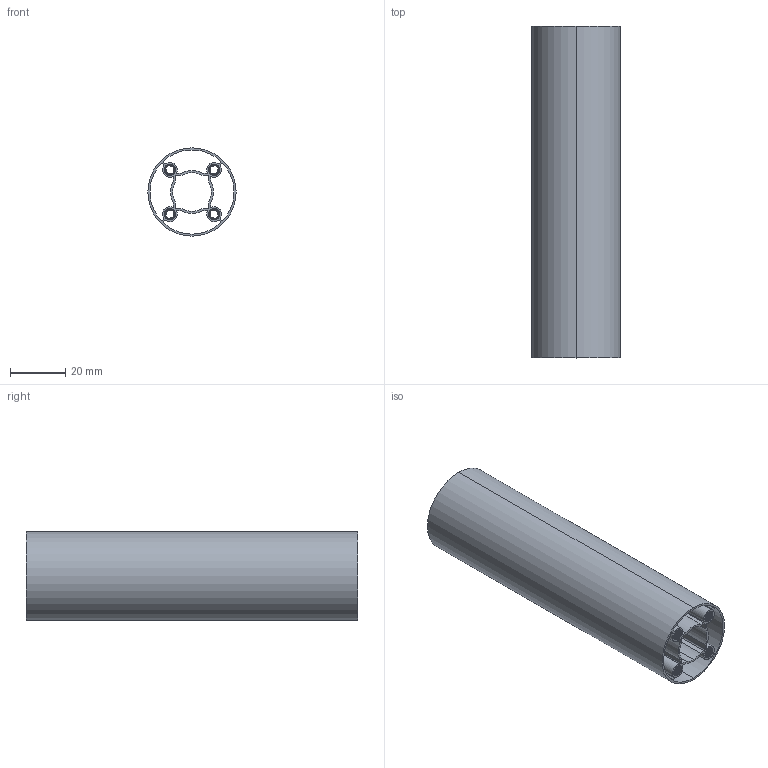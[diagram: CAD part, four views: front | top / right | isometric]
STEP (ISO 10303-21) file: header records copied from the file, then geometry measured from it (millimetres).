
FILE_DESCRIPTION (( 'STEP AP203' ), '1' );
FILE_NAME ('4103-0032-0120.STEP', '2022-09-14T13:49:29', ( '' ), ( '' ), 'SwSTEP 2.0', 'SolidWorks 2016', '' );
FILE_SCHEMA (( 'CONFIG_CONTROL_DESIGN' ));
Length unit declared in the file: millimetre
Products named in the file (1): 4103-0032-0120
Bounding box: 31.95 x 120 x 31.95 mm (x, y, z)
Volume: 20166.8 mm3; surface area: 48454.7 mm2
Topology: 1 solids, 1 shells, 781 faces, 2333 edges, 1554 vertices
Faces by surface type: cylinder 711, plane 34, cone 20, bspline 16
Entity records: 50002 total; most frequent: CARTESIAN_POINT 32717, ORIENTED_EDGE 4666, DIRECTION 2715, EDGE_CURVE 2333, VERTEX_POINT 1554, AXIS2_PLACEMENT_3D 960, EDGE_LOOP 799, LINE 795
